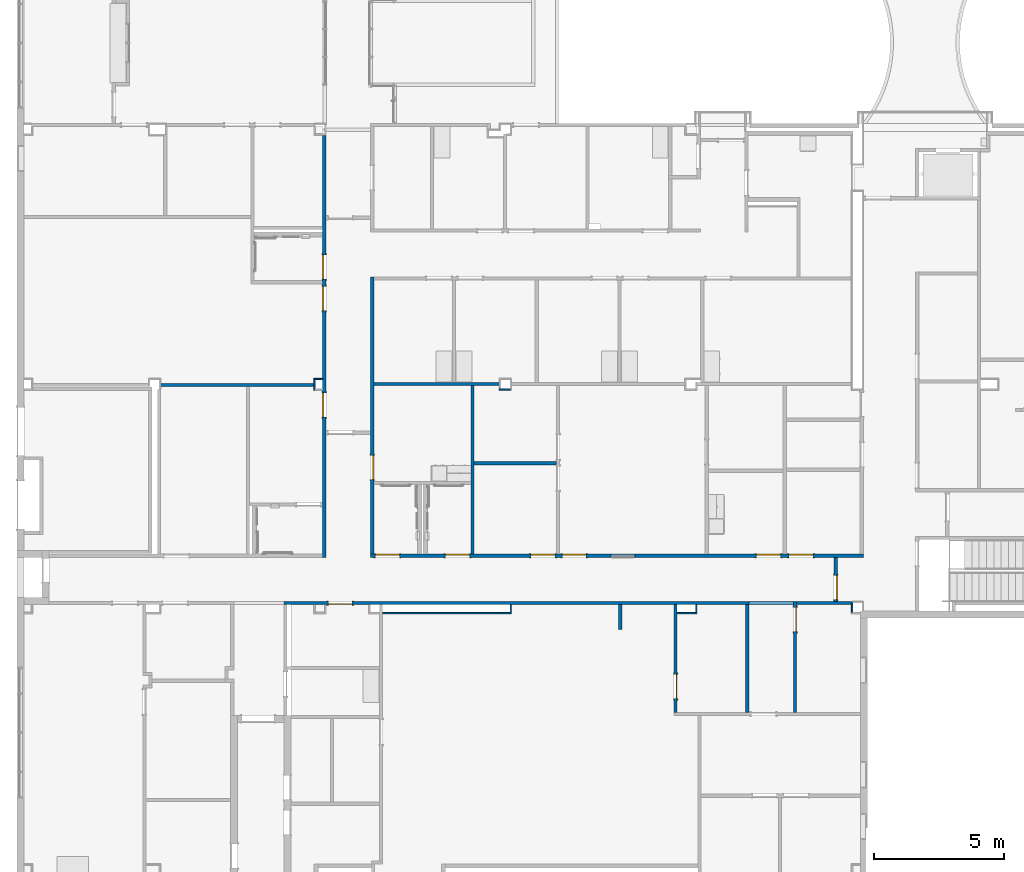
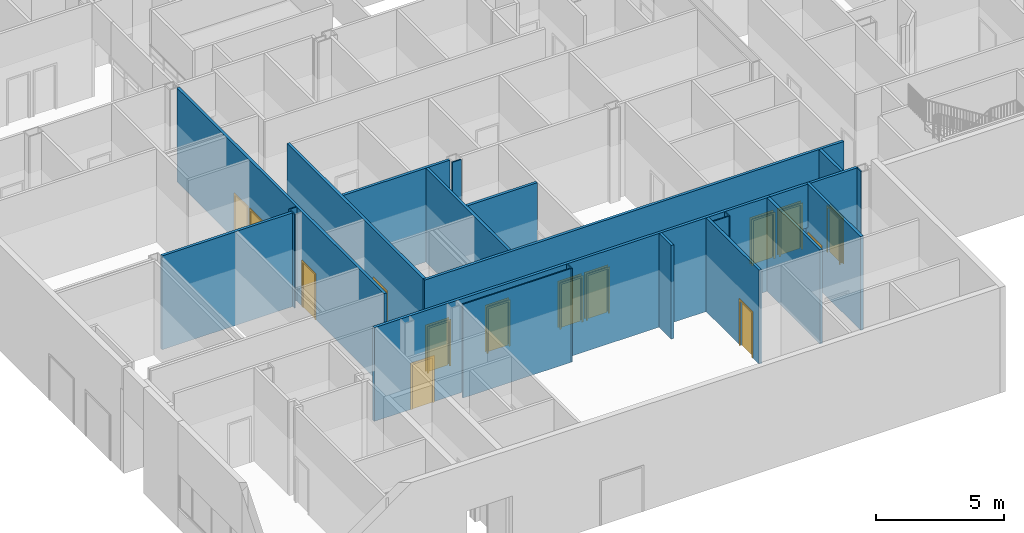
# One storey, part 21 of 82: 23 walls, 14 doors, 15 openings.
"""IFC2X3 building model written with IfcOpenShell, lengths in metres."""

from ifc_helpers import new_model, entity, si_unit, converted_unit, frame, frame_2d, origin, origin_2d_with_axis, place, context, project, spatial, polyline, rectangle, outline, extrude, source, transform, mapped, material, layer, layer_set, layer_usage, type_object, type_shapes, element, fill, save


model = new_model("IFC2X3")

# Units and contexts
model_context = context("Model", 3, precision=1e-09, world=origin())
plan_context = context("Plan", 3, precision=1e-09, world=origin())
ifc_project = project(units=[si_unit("LENGTHUNIT", "METRE"), si_unit("AREAUNIT", "SQUARE_METRE"), si_unit("VOLUMEUNIT", "CUBIC_METRE"), converted_unit("PLANEANGLEUNIT", "DEGREE", entity("IfcRatioMeasure", 0.01745329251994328), si_unit("PLANEANGLEUNIT", "RADIAN"), dimensions=[0, 0, 0, 0, 0, 0, 0]), si_unit("TIMEUNIT", "SECOND")], contexts=[model_context, plan_context])

# Site, building, storey
site_placement = place(None, origin())
site = spatial("IfcSite", under=ifc_project, at=site_placement, Name="Default", CompositionType="ELEMENT")
building_placement = place(site_placement, origin())
building = spatial("IfcBuilding", under=site, at=building_placement, CompositionType="ELEMENT")
storey_placement = place(building_placement, origin())
storey = spatial("IfcBuildingStorey", under=building, at=storey_placement, Name="First Floor", CompositionType="ELEMENT", Elevation=-3.531500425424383e-13)

# Wall, openings, doors
ifc_material_1 = material(Name="Plasterboard")
ifc_layer_1 = layer(ifc_material_1, 0.016)
ifc_material_2 = material(Name="Metal - Stud Layer")
ifc_layer_2 = layer(ifc_material_2, 0.092)
ifc_layer_3 = layer(ifc_material_1, 0.016)
ifc_layer_set_1 = layer_set([ifc_layer_1, ifc_layer_2, ifc_layer_3], Name="Basic Wall:Interior - Partition (92mm Stud)")
ifc_layer_usage_1 = layer_usage(ifc_layer_set_1, "AXIS2", "NEGATIVE", 0.062)
wall_1_placement = place(storey_placement, frame((-40.49200000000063, 28.14999999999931, 0.0), z_axis=(0.0, 0.0, 1.0), x_axis=(0.0, -1.0, 0.0)))
wall_1 = element("IfcWallStandardCase", 1, at=wall_1_placement, inside=storey, material=ifc_layer_usage_1, Name="Basic Wall:Interior - Partition (92mm Stud)", ObjectType="Basic Wall:Interior - Partition (92mm Stud)", context=model_context, shape_type="SweptSolid", body=[
    extrude(rectangle(XDim=16.1700000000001, YDim=0.1240000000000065, at=frame_2d((8.085000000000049, 0.0), x_axis=(-1.0, 0.0))), origin(), (0.0, 0.0, 1.0), 4.468000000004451),
])
opening_1_placement = place(wall_1_placement, frame((6.704999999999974, 0.06199999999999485, 0.0)))
opening_1 = element("IfcOpeningElement", 2, at=opening_1_placement, cuts=wall_1, Name="M_Single-Flush:0915 x 2134mm:0915 x 2134mm:1", ObjectType="Opening", context=model_context, shape_type="SweptSolid", body=[
    extrude(rectangle(XDim=0.9149999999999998, YDim=2.134, at=frame_2d((1.067, 0.4575), x_axis=(0.0, 1.0))), frame((0.0, 0.0, 0.0), z_axis=(0.0, -1.0, 0.0), x_axis=(0.0, 0.0, 1.0)), (0.0, 0.0, 1.0), 0.124),
])
opening_2_placement = place(wall_1_placement, frame((5.505999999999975, 0.06199999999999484, 0.0)))
opening_2 = element("IfcOpeningElement", 3, at=opening_2_placement, cuts=wall_1, Name="M_Single-Flush:0915 x 2134mm:0915 x 2134mm:1", ObjectType="Opening", context=model_context, shape_type="SweptSolid", body=[
    extrude(rectangle(XDim=0.9149999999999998, YDim=2.134, at=frame_2d((1.067, 0.4574999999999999), x_axis=(0.0, -1.0))), frame((0.0, 0.0, 0.0), z_axis=(0.0, -1.0, 0.0), x_axis=(0.0, 0.0, 1.0)), (0.0, 0.0, 1.0), 0.124),
])
opening_3_placement = place(wall_1_placement, frame((10.78499999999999, 0.06199999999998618, 0.0)))
opening_3 = element("IfcOpeningElement", 4, at=opening_3_placement, cuts=wall_1, Name="M_Single-Flush:0915 x 2134mm:0915 x 2134mm:1", ObjectType="Opening", context=model_context, shape_type="SweptSolid", body=[
    extrude(rectangle(XDim=0.9149999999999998, YDim=2.134, at=frame_2d((1.067, 0.4575), x_axis=(0.0, 1.0))), frame((0.0, 0.0, 0.0), z_axis=(0.0, -1.0, 0.0), x_axis=(0.0, 0.0, 1.0)), (0.0, 0.0, 1.0), 0.124),
])
door_style_1 = type_object("IfcDoorStyle", Name="0915 x 2134mm", ConstructionType="NOTDEFINED", OperationType="SINGLE_SWING_RIGHT", ParameterTakesPrecedence=False, Sizeable=False)
shared_shape_1 = source(origin(), model_context, "Body", "SweptSolid", [
    extrude(outline(polyline([(-0.5335, -1.123999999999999), (0.5334999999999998, -1.123999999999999), (0.5334999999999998, 1.086), (0.4574999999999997, 1.086), (0.4574999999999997, -1.048000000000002), (-0.4574999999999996, -1.048000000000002), (-0.4574999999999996, 1.086), (-0.5335, 1.086), (-0.5335, -1.123999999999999)])), frame((0.4575000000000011, 0.1239999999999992, 1.086), z_axis=(0.0, 1.0, 0.0), x_axis=(1.0, 0.0, 0.0)), (0.0, 0.0, 1.0), 0.02499999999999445),
    extrude(outline(polyline([(-1.123999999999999, -0.5334999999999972), (1.085999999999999, -0.5334999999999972), (1.085999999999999, -0.4575000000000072), (-1.048, -0.4575000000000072), (-1.048, 0.4575000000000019), (1.085999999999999, 0.4575000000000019), (1.085999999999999, 0.5335000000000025), (-1.123999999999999, 0.5335000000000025), (-1.123999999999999, -0.5334999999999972)])), frame((0.4575000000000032, -0.02500000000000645, 1.085999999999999), z_axis=(0.0, 1.0, 0.0), x_axis=(0.0, 0.0, -1.0)), (0.0, 0.0, 1.0), 0.02500000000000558),
    extrude(rectangle(XDim=0.051, YDim=0.9149999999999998, at=origin_2d_with_axis()), frame((0.4575000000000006, 0.09849999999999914, 0.0), z_axis=(0.0, 0.0, 1.0), x_axis=(0.0, 1.0, 0.0)), (0.0, 0.0, 1.0), 2.133999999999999),
])
type_shapes(door_style_1, [shared_shape_1])
door_1_placement = place(opening_1_placement, frame((0.0, 0.0, 0.0), z_axis=(0.0, 0.0, 1.0), x_axis=(-1.0, 0.0, 0.0)))
door_1 = element("IfcDoor", 5, at=door_1_placement, inside=storey, type_object=door_style_1, Name="M_Single-Flush:0915 x 2134mm:0915 x 2134mm", ObjectType="0915 x 2134mm", OverallHeight=2.134, OverallWidth=0.9149999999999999, context=model_context, shape_type="MappedRepresentation", body=[
    mapped(shared_shape_1, transform((0.0, 0.0, 0.0), scale=1.0)),
])
fill(opening_1, door_1)
door_2_placement = place(opening_3_placement, frame((0.0, 0.0, 0.0), z_axis=(0.0, 0.0, 1.0), x_axis=(-1.0, 0.0, 0.0)))
door_2 = element("IfcDoor", 6, at=door_2_placement, inside=storey, type_object=door_style_1, Name="M_Single-Flush:0915 x 2134mm:0915 x 2134mm", ObjectType="0915 x 2134mm", OverallHeight=2.134, OverallWidth=0.9149999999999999, context=model_context, shape_type="MappedRepresentation", body=[
    mapped(shared_shape_1, transform((0.0, 0.0, 0.0), scale=1.0)),
])
fill(opening_3, door_2)
door_style_2 = type_object("IfcDoorStyle", Name="0915 x 2134mm", ConstructionType="NOTDEFINED", OperationType="SINGLE_SWING_LEFT", ParameterTakesPrecedence=False, Sizeable=False)
shared_shape_2 = source(origin(), model_context, "Body", "SweptSolid", [
    extrude(outline(polyline([(-0.5335, -1.123999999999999), (0.5334999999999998, -1.123999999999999), (0.5334999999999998, 1.086), (0.4574999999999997, 1.086), (0.4574999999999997, -1.048000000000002), (-0.4574999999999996, -1.048000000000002), (-0.4574999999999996, 1.086), (-0.5335, 1.086), (-0.5335, -1.123999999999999)])), frame((0.4575000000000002, 0.1489999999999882, 1.086), z_axis=(0.0, -1.0, 0.0), x_axis=(-1.0, 0.0, 0.0)), (0.0, 0.0, 1.0), 0.02499999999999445),
    extrude(outline(polyline([(-1.123999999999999, -0.5334999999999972), (1.085999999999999, -0.5334999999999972), (1.085999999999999, -0.4575000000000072), (-1.048, -0.4575000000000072), (-1.048, 0.4575000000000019), (1.085999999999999, 0.4575000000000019), (1.085999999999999, 0.5335000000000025), (-1.123999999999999, 0.5335000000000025), (-1.123999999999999, -0.5334999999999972)])), frame((0.4574999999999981, 0.0, 1.085999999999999), z_axis=(0.0, -1.0, 0.0), x_axis=(0.0, 0.0, -1.0)), (0.0, 0.0, 1.0), 0.02500000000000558),
    extrude(rectangle(XDim=0.9149999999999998, YDim=0.051, at=origin_2d_with_axis()), frame((0.4575000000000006, 0.09849999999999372, 0.0)), (0.0, 0.0, 1.0), 2.133999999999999),
])
type_shapes(door_style_2, [shared_shape_2])
door_3_placement = place(opening_2_placement, frame((0.0, 0.0, 0.0), z_axis=(0.0, 0.0, 1.0), x_axis=(-1.0, 0.0, 0.0)))
door_3 = element("IfcDoor", 7, at=door_3_placement, inside=storey, type_object=door_style_2, Name="M_Single-Flush:0915 x 2134mm:0915 x 2134mm", ObjectType="0915 x 2134mm", OverallHeight=2.134, OverallWidth=0.9149999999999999, context=model_context, shape_type="MappedRepresentation", body=[
    mapped(shared_shape_2, transform((0.0, 0.0, 0.0), scale=1.0)),
])
fill(opening_2, door_3)

wall_2_placement = place(storey_placement, frame((-19.83000000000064, 12.04199999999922, 0.0), z_axis=(0.0, 0.0, 1.0), x_axis=(-1.0, 0.0, 0.0)))
wall_2 = element("IfcWallStandardCase", 8, at=wall_2_placement, inside=storey, material=ifc_layer_usage_1, Name="Basic Wall:Interior - Partition (92mm Stud)", ObjectType="Basic Wall:Interior - Partition (92mm Stud)", context=model_context, shape_type="SweptSolid", body=[
    extrude(rectangle(XDim=18.89000000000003, YDim=0.1240000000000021, at=frame_2d((9.445000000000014, 0.0), x_axis=(-1.0, 0.0))), origin(), (0.0, 0.0, 1.0), 4.46800000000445),
])
opening_4_placement = place(wall_2_placement, origin())
element("IfcOpeningElement", 9, at=opening_4_placement, cuts=wall_2, ObjectType="Opening", context=model_context, shape_type="SweptSolid", body=[
    extrude(rectangle(XDim=0.9999999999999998, YDim=0.9150000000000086, at=frame_2d((0.0, 0.0), x_axis=(0.0, 1.0))), frame((9.221299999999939, -0.2143999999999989, 1.5), z_axis=(0.0, 1.0, 0.0), x_axis=(-1.0, 0.0, 0.0)), (0.0, 0.0, 1.0), 0.4288),
])
opening_5_placement = place(wall_2_placement, frame((11.54, 0.06199999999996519, 0.0)))
opening_5 = element("IfcOpeningElement", 10, at=opening_5_placement, cuts=wall_2, Name="M_Single-Flush:0915 x 2134mm:0915 x 2134mm:1", ObjectType="Opening", context=model_context, shape_type="SweptSolid", body=[
    extrude(rectangle(XDim=0.9149999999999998, YDim=2.134, at=frame_2d((1.067, 0.4574999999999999), x_axis=(0.0, -1.0))), frame((0.0, 0.0, 0.0), z_axis=(0.0, -1.0, 0.0), x_axis=(0.0, 0.0, 1.0)), (0.0, 0.0, 1.0), 0.124),
])
opening_6_placement = place(wall_2_placement, frame((12.73899999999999, 0.06199999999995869, 0.0)))
opening_6 = element("IfcOpeningElement", 11, at=opening_6_placement, cuts=wall_2, Name="M_Single-Flush:0915 x 2134mm:0915 x 2134mm:1", ObjectType="Opening", context=model_context, shape_type="SweptSolid", body=[
    extrude(rectangle(XDim=0.9149999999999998, YDim=2.134, at=frame_2d((1.067, 0.4575), x_axis=(0.0, 1.0))), frame((0.0, 0.0, 0.0), z_axis=(0.0, -1.0, 0.0), x_axis=(0.0, 0.0, 1.0)), (0.0, 0.0, 1.0), 0.124),
])
opening_7_placement = place(wall_2_placement, frame((4.094999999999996, 0.06199999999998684, 0.0)))
opening_7 = element("IfcOpeningElement", 12, at=opening_7_placement, cuts=wall_2, Name="M_Single-Flush:0915 x 2134mm:0915 x 2134mm:1", ObjectType="Opening", context=model_context, shape_type="SweptSolid", body=[
    extrude(rectangle(XDim=0.9149999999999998, YDim=2.134, at=frame_2d((1.067, 0.4575), x_axis=(0.0, 1.0))), frame((0.0, 0.0, 0.0), z_axis=(0.0, -1.0, 0.0), x_axis=(0.0, 0.0, 1.0)), (0.0, 0.0, 1.0), 0.124),
])
opening_8_placement = place(wall_2_placement, frame((2.856, 0.06199999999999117, 0.0)))
opening_8 = element("IfcOpeningElement", 13, at=opening_8_placement, cuts=wall_2, Name="M_Single-Flush:0915 x 2134mm:0915 x 2134mm:1", ObjectType="Opening", context=model_context, shape_type="SweptSolid", body=[
    extrude(rectangle(XDim=0.9149999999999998, YDim=2.134, at=frame_2d((1.067, 0.4574999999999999), x_axis=(0.0, -1.0))), frame((0.0, 0.0, 0.0), z_axis=(0.0, -1.0, 0.0), x_axis=(0.0, 0.0, 1.0)), (0.0, 0.0, 1.0), 0.124),
])
opening_9_placement = place(wall_2_placement, frame((16.019, 0.06199999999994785, 0.0)))
opening_9 = element("IfcOpeningElement", 14, at=opening_9_placement, cuts=wall_2, Name="M_Single-Flush:0915 x 2134mm:0915 x 2134mm:1", ObjectType="Opening", context=model_context, shape_type="SweptSolid", body=[
    extrude(rectangle(XDim=0.9149999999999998, YDim=2.134, at=frame_2d((1.067, 0.4575), x_axis=(0.0, 1.0))), frame((0.0, 0.0, 0.0), z_axis=(0.0, -1.0, 0.0), x_axis=(0.0, 0.0, 1.0)), (0.0, 0.0, 1.0), 0.124),
])
opening_10_placement = place(wall_2_placement, frame((18.70600000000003, 0.06199999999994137, 0.0)))
opening_10 = element("IfcOpeningElement", 15, at=opening_10_placement, cuts=wall_2, Name="M_Single-Flush:0915 x 2134mm:0915 x 2134mm:1", ObjectType="Opening", context=model_context, shape_type="SweptSolid", body=[
    extrude(rectangle(XDim=0.9149999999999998, YDim=2.134, at=frame_2d((1.067, 0.4574999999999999), x_axis=(0.0, -1.0))), frame((0.0, 0.0, 0.0), z_axis=(0.0, -1.0, 0.0), x_axis=(0.0, 0.0, 1.0)), (0.0, 0.0, 1.0), 0.124),
])
door_4_placement = place(opening_7_placement, frame((0.0, 0.0, 0.0), z_axis=(0.0, 0.0, 1.0), x_axis=(-1.0, 0.0, 0.0)))
door_4 = element("IfcDoor", 16, at=door_4_placement, inside=storey, type_object=door_style_1, Name="M_Single-Flush:0915 x 2134mm:0915 x 2134mm", ObjectType="0915 x 2134mm", OverallHeight=2.134, OverallWidth=0.9149999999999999, context=model_context, shape_type="MappedRepresentation", body=[
    mapped(shared_shape_1, transform((0.0, 0.0, 0.0), scale=1.0)),
])
fill(opening_7, door_4)
door_5_placement = place(opening_9_placement, frame((0.0, 0.0, 0.0), z_axis=(0.0, 0.0, 1.0), x_axis=(-1.0, 0.0, 0.0)))
door_5 = element("IfcDoor", 17, at=door_5_placement, inside=storey, type_object=door_style_1, Name="M_Single-Flush:0915 x 2134mm:0915 x 2134mm", ObjectType="0915 x 2134mm", OverallHeight=2.134, OverallWidth=0.9149999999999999, context=model_context, shape_type="MappedRepresentation", body=[
    mapped(shared_shape_1, transform((0.0, 0.0, 0.0), scale=1.0)),
])
fill(opening_9, door_5)
door_6_placement = place(opening_6_placement, frame((0.0, 0.0, 0.0), z_axis=(0.0, 0.0, 1.0), x_axis=(-1.0, 0.0, 0.0)))
door_6 = element("IfcDoor", 18, at=door_6_placement, inside=storey, type_object=door_style_1, Name="M_Single-Flush:0915 x 2134mm:0915 x 2134mm", ObjectType="0915 x 2134mm", OverallHeight=2.134, OverallWidth=0.9149999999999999, context=model_context, shape_type="MappedRepresentation", body=[
    mapped(shared_shape_1, transform((0.0, 0.0, 0.0), scale=1.0)),
])
fill(opening_6, door_6)
door_7_placement = place(opening_10_placement, frame((0.0, 0.0, 0.0), z_axis=(0.0, 0.0, 1.0), x_axis=(-1.0, 0.0, 0.0)))
door_7 = element("IfcDoor", 19, at=door_7_placement, inside=storey, type_object=door_style_2, Name="M_Single-Flush:0915 x 2134mm:0915 x 2134mm", ObjectType="0915 x 2134mm", OverallHeight=2.134, OverallWidth=0.9149999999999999, context=model_context, shape_type="MappedRepresentation", body=[
    mapped(shared_shape_2, transform((0.0, 0.0, 0.0), scale=1.0)),
])
fill(opening_10, door_7)
door_8_placement = place(opening_8_placement, frame((0.0, 0.0, 0.0), z_axis=(0.0, 0.0, 1.0), x_axis=(-1.0, 0.0, 0.0)))
door_8 = element("IfcDoor", 20, at=door_8_placement, inside=storey, type_object=door_style_2, Name="M_Single-Flush:0915 x 2134mm:0915 x 2134mm", ObjectType="0915 x 2134mm", OverallHeight=2.134, OverallWidth=0.9149999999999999, context=model_context, shape_type="MappedRepresentation", body=[
    mapped(shared_shape_2, transform((0.0, 0.0, 0.0), scale=1.0)),
])
fill(opening_8, door_8)
door_9_placement = place(opening_5_placement, frame((0.0, 0.0, 0.0), z_axis=(0.0, 0.0, 1.0), x_axis=(-1.0, 0.0, 0.0)))
door_9 = element("IfcDoor", 21, at=door_9_placement, inside=storey, type_object=door_style_2, Name="M_Single-Flush:0915 x 2134mm:0915 x 2134mm", ObjectType="0915 x 2134mm", OverallHeight=2.134, OverallWidth=0.9149999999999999, context=model_context, shape_type="MappedRepresentation", body=[
    mapped(shared_shape_2, transform((0.0, 0.0, 0.0), scale=1.0)),
])
fill(opening_5, door_9)

# Wall, opening, door
wall_3_placement = place(storey_placement, frame((-42.04000000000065, 10.22499999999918, 0.0)))
wall_3 = element("IfcWallStandardCase", 22, at=wall_3_placement, inside=storey, material=ifc_layer_usage_1, Name="Basic Wall:Interior - Partition (92mm Stud)", ObjectType="Basic Wall:Interior - Partition (92mm Stud)", context=model_context, shape_type="SweptSolid", body=[
    extrude(rectangle(XDim=17.82000000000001, YDim=0.1240000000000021, at=frame_2d((8.910000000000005, 0.0), x_axis=(-1.0, 0.0))), origin(), (0.0, 0.0, 1.0), 4.468000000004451),
])
opening_11_placement = place(wall_3_placement, frame((2.614599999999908, 0.06199999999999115, 0.0)))
opening_11 = element("IfcOpeningElement", 23, at=opening_11_placement, cuts=wall_3, Name="M_Single-Flush:0915 x 2134mm:0915 x 2134mm:1", ObjectType="Opening", context=model_context, shape_type="SweptSolid", body=[
    extrude(rectangle(XDim=0.9149999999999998, YDim=2.134, at=frame_2d((1.067, 0.4575), x_axis=(0.0, 1.0))), frame((0.0, 0.0, 0.0), z_axis=(0.0, -1.0, 0.0), x_axis=(0.0, 0.0, 1.0)), (0.0, 0.0, 1.0), 0.124),
])
door_10_placement = place(opening_11_placement, frame((0.0, 0.0, 0.0), z_axis=(0.0, 0.0, 1.0), x_axis=(-1.0, 0.0, 0.0)))
door_10 = element("IfcDoor", 24, at=door_10_placement, inside=storey, type_object=door_style_1, Name="M_Single-Flush:0915 x 2134mm:0915 x 2134mm", ObjectType="0915 x 2134mm", OverallHeight=2.134, OverallWidth=0.9149999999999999, context=model_context, shape_type="MappedRepresentation", body=[
    mapped(shared_shape_1, transform((0.0, 0.0, 0.0), scale=1.0)),
])
fill(opening_11, door_10)

wall_4_placement = place(storey_placement, frame((-38.65800000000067, 12.10399999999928, 0.0), z_axis=(0.0, 0.0, 1.0), x_axis=(0.0, 1.0, 0.0)))
wall_4 = element("IfcWallStandardCase", 25, at=wall_4_placement, inside=storey, material=ifc_layer_usage_1, Name="Basic Wall:Interior - Partition (92mm Stud)", ObjectType="Basic Wall:Interior - Partition (92mm Stud)", context=model_context, shape_type="SweptSolid", body=[
    extrude(rectangle(XDim=10.62600000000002, YDim=0.1239999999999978, at=frame_2d((5.313000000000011, 0.0), x_axis=(-1.0, 0.0))), origin(), (0.0, 0.0, 1.0), 4.46800000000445),
])
opening_12_placement = place(wall_4_placement, frame((3.780999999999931, 0.0619999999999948, 0.0)))
opening_12 = element("IfcOpeningElement", 26, at=opening_12_placement, cuts=wall_4, Name="M_Single-Flush:0915 x 2134mm:0915 x 2134mm:1", ObjectType="Opening", context=model_context, shape_type="SweptSolid", body=[
    extrude(rectangle(XDim=0.9149999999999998, YDim=2.134, at=frame_2d((1.067, 0.4575), x_axis=(0.0, 1.0))), frame((0.0, 0.0, 0.0), z_axis=(0.0, -1.0, 0.0), x_axis=(0.0, 0.0, 1.0)), (0.0, 0.0, 1.0), 0.124),
])
door_11_placement = place(opening_12_placement, frame((0.0, 0.0, 0.0), z_axis=(0.0, 0.0, 1.0), x_axis=(-1.0, 0.0, 0.0)))
door_11 = element("IfcDoor", 27, at=door_11_placement, inside=storey, type_object=door_style_1, Name="M_Single-Flush:0915 x 2134mm:0915 x 2134mm", ObjectType="0915 x 2134mm", OverallHeight=2.134, OverallWidth=0.9149999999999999, context=model_context, shape_type="MappedRepresentation", body=[
    mapped(shared_shape_1, transform((0.0, 0.0, 0.0), scale=1.0)),
])
fill(opening_12, door_11)

# Walls
wall_5_placement = place(storey_placement, frame((-22.38600000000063, 10.22499999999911, 0.0)))
element("IfcWallStandardCase", 28, at=wall_5_placement, inside=storey, material=ifc_layer_usage_1, Name="Basic Wall:Interior - Partition (92mm Stud)", ObjectType="Basic Wall:Interior - Partition (92mm Stud)", context=model_context, shape_type="SweptSolid", body=[
    extrude(rectangle(XDim=2.122999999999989, YDim=0.1240000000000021, at=frame_2d((1.061499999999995, 0.0), x_axis=(-1.0, 0.0))), origin(), (0.0, 0.0, 1.0), 4.46800000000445),
])
wall_6_placement = place(storey_placement, frame((-34.81200000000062, 18.55999999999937, 0.0), z_axis=(0.0, 0.0, 1.0), x_axis=(0.0, -1.0, 0.0)))
element("IfcWallStandardCase", 29, at=wall_6_placement, inside=storey, material=ifc_layer_usage_1, Name="Basic Wall:Interior - Partition (92mm Stud)", ObjectType="Basic Wall:Interior - Partition (92mm Stud)", context=model_context, shape_type="SweptSolid", body=[
    extrude(rectangle(XDim=6.456000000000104, YDim=0.1239999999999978, at=frame_2d((3.228000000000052, 0.0), x_axis=(-1.0, 0.0))), origin(), (0.0, 0.0, 1.0), 4.468000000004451),
])
wall_7_placement = place(storey_placement, frame((-33.78000000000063, 18.62199999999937, 0.0), z_axis=(0.0, 0.0, 1.0), x_axis=(-1.0, 0.0, 0.0)))
element("IfcWallStandardCase", 30, at=wall_7_placement, inside=storey, material=ifc_layer_usage_1, Name="Basic Wall:Interior - Partition (92mm Stud)", ObjectType="Basic Wall:Interior - Partition (92mm Stud)", context=model_context, shape_type="SweptSolid", body=[
    extrude(rectangle(XDim=4.816000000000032, YDim=0.1240000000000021, at=frame_2d((2.408000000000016, 0.0), x_axis=(-1.0, 0.0))), origin(), (0.0, 0.0, 1.0), 4.468000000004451),
])

# Wall, opening, door
wall_8_placement = place(storey_placement, frame((-22.44800000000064, 6.033999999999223, 0.0), z_axis=(0.0, 0.0, 1.0), x_axis=(0.0, 1.0, 0.0)))
wall_8 = element("IfcWallStandardCase", 31, at=wall_8_placement, inside=storey, material=ifc_layer_usage_1, Name="Basic Wall:Interior - Partition (92mm Stud)", ObjectType="Basic Wall:Interior - Partition (92mm Stud)", context=model_context, shape_type="SweptSolid", body=[
    extrude(rectangle(XDim=4.25299999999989, YDim=0.1239999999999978, at=frame_2d((2.126499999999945, 0.0), x_axis=(-1.0, 0.0))), origin(), (0.0, 0.0, 1.0), 4.46800000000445),
])
opening_13_placement = place(wall_8_placement, frame((4.011999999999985, 0.06199999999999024, 0.0)))
opening_13 = element("IfcOpeningElement", 32, at=opening_13_placement, cuts=wall_8, Name="M_Single-Flush:0915 x 2134mm:0915 x 2134mm:1", ObjectType="Opening", context=model_context, shape_type="SweptSolid", body=[
    extrude(rectangle(XDim=0.9150000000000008, YDim=2.134, at=frame_2d((1.067, 0.4575000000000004), x_axis=(0.0, -1.0))), frame((0.0, 0.0, 0.0), z_axis=(0.0, -1.0, 0.0), x_axis=(0.0, 0.0, 1.0)), (0.0, 0.0, 1.0), 0.124),
])
door_12_placement = place(opening_13_placement, frame((0.0, 0.0, 0.0), z_axis=(0.0, 0.0, 1.0), x_axis=(-1.0, 0.0, 0.0)))
door_12 = element("IfcDoor", 33, at=door_12_placement, inside=storey, type_object=door_style_2, Name="M_Single-Flush:0915 x 2134mm:0915 x 2134mm", ObjectType="0915 x 2134mm", OverallHeight=2.134, OverallWidth=0.915000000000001, context=model_context, shape_type="MappedRepresentation", body=[
    mapped(shared_shape_2, transform((0.0, 0.0, 0.0), scale=1.0)),
])
fill(opening_13, door_12)

wall_9_placement = place(storey_placement, frame((-27.02840000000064, 6.033999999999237, 0.0), z_axis=(0.0, 0.0, 1.0), x_axis=(0.0, 1.0, 0.0)))
wall_9 = element("IfcWallStandardCase", 34, at=wall_9_placement, inside=storey, material=ifc_layer_usage_1, Name="Basic Wall:Interior - Partition (92mm Stud)", ObjectType="Basic Wall:Interior - Partition (92mm Stud)", context=model_context, shape_type="SweptSolid", body=[
    extrude(rectangle(XDim=4.128999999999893, YDim=0.1239999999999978, at=frame_2d((2.064499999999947, 0.0), x_axis=(-1.0, 0.0))), origin(), (0.0, 0.0, 1.0), 4.46800000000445),
])
opening_14_placement = place(wall_9_placement, frame((1.454999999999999, 0.0619999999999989, 0.0)))
opening_14 = element("IfcOpeningElement", 35, at=opening_14_placement, cuts=wall_9, Name="M_Single-Flush:0915 x 2134mm:0915 x 2134mm:1", ObjectType="Opening", context=model_context, shape_type="SweptSolid", body=[
    extrude(rectangle(XDim=0.9149999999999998, YDim=2.134, at=frame_2d((1.067, 0.4575), x_axis=(0.0, 1.0))), frame((0.0, 0.0, 0.0), z_axis=(0.0, -1.0, 0.0), x_axis=(0.0, 0.0, 1.0)), (0.0, 0.0, 1.0), 0.124),
])
door_13_placement = place(opening_14_placement, frame((0.0, 0.0, 0.0), z_axis=(0.0, 0.0, 1.0), x_axis=(-1.0, 0.0, 0.0)))
door_13 = element("IfcDoor", 36, at=door_13_placement, inside=storey, type_object=door_style_1, Name="M_Single-Flush:0915 x 2134mm:0915 x 2134mm", ObjectType="0915 x 2134mm", OverallHeight=2.134, OverallWidth=0.9149999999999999, context=model_context, shape_type="MappedRepresentation", body=[
    mapped(shared_shape_1, transform((0.0, 0.0, 0.0), scale=1.0)),
])
fill(opening_14, door_13)

# Walls
wall_10_placement = place(storey_placement, frame((-24.22000000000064, 10.22499999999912, 2.4)))
element("IfcWallStandardCase", 37, at=wall_10_placement, inside=storey, material=ifc_layer_usage_1, Name="Basic Wall:Interior - Partition (92mm Stud)", ObjectType="Basic Wall:Interior - Partition (92mm Stud)", context=model_context, shape_type="SweptSolid", body=[
    extrude(rectangle(XDim=1.71000000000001, YDim=0.1240000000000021, at=frame_2d((0.8550000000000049, 0.0), x_axis=(-1.0, 0.0))), origin(), (0.0, 0.0, 1.0), 2.06800000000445),
])
wall_11_placement = place(storey_placement, frame((-46.77000000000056, 18.58799999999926, 0.0)))
element("IfcWallStandardCase", 38, at=wall_11_placement, inside=storey, material=ifc_layer_usage_1, Name="Basic Wall:Interior - Partition (92mm Stud)", ObjectType="Basic Wall:Interior - Partition (92mm Stud)", context=model_context, shape_type="SweptSolid", body=[
    extrude(rectangle(XDim=5.879999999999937, YDim=0.1240000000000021, at=frame_2d((2.939999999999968, 0.0), x_axis=(-1.0, 0.0))), origin(), (0.0, 0.0, 1.0), 4.468000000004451),
])
wall_12_placement = place(storey_placement, frame((-24.28200000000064, 10.16299999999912, 0.0), z_axis=(0.0, 0.0, 1.0), x_axis=(0.0, -1.0, 0.0)))
element("IfcWallStandardCase", 39, at=wall_12_placement, inside=storey, material=ifc_layer_usage_1, Name="Basic Wall:Interior - Partition (92mm Stud)", ObjectType="Basic Wall:Interior - Partition (92mm Stud)", context=model_context, shape_type="SweptSolid", body=[
    extrude(rectangle(XDim=4.128999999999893, YDim=0.1239999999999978, at=frame_2d((2.064499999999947, 0.0), x_axis=(-1.0, 0.0))), origin(), (0.0, 0.0, 1.0), 4.46800000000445),
])

# Wall, opening, door
wall_13_placement = place(storey_placement, frame((-20.89200000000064, 11.97999999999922, 0.0), z_axis=(0.0, 0.0, 1.0), x_axis=(0.0, -1.0, 0.0)))
wall_13 = element("IfcWallStandardCase", 40, at=wall_13_placement, inside=storey, material=ifc_layer_usage_1, Name="Basic Wall:Interior - Partition (92mm Stud)", ObjectType="Basic Wall:Interior - Partition (92mm Stud)", context=model_context, shape_type="SweptSolid", body=[
    extrude(rectangle(XDim=1.693000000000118, YDim=0.1239999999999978, at=frame_2d((0.8465000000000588, 0.0), x_axis=(-1.0, 0.0))), origin(), (0.0, 0.0, 1.0), 4.46800000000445),
])
opening_15_placement = place(wall_13_placement, frame((0.695000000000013, -0.06200000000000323, 0.0)))
opening_15 = element("IfcOpeningElement", 41, at=opening_15_placement, cuts=wall_13, Name="M_Single-Flush:0915 x 2134mm:0915 x 2134mm:1", ObjectType="Opening", context=model_context, shape_type="SweptSolid", body=[
    extrude(rectangle(XDim=0.9149999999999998, YDim=2.134, at=frame_2d((1.067, 0.4575), x_axis=(0.0, 1.0))), frame((0.0, 0.0, 0.0), z_axis=(0.0, 1.0, 0.0), x_axis=(0.0, 0.0, 1.0)), (0.0, 0.0, 1.0), 0.124),
])
door_14_placement = place(opening_15_placement, origin())
door_14 = element("IfcDoor", 42, at=door_14_placement, inside=storey, type_object=door_style_1, Name="M_Single-Flush:0915 x 2134mm:0915 x 2134mm", ObjectType="0915 x 2134mm", OverallHeight=2.134, OverallWidth=0.9149999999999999, context=model_context, shape_type="MappedRepresentation", body=[
    mapped(shared_shape_1, transform((0.0, 0.0, 0.0), scale=1.0)),
])
fill(opening_15, door_14)

# Walls
ifc_layer_4 = layer(ifc_material_2, 0.038)
ifc_layer_5 = layer(ifc_material_1, 0.016)
ifc_layer_set_2 = layer_set([ifc_layer_4, ifc_layer_5], Name="Basic Wall:Interior - Furring (38 mm Stud)")
ifc_layer_usage_2 = layer_usage(ifc_layer_set_2, "AXIS2", "POSITIVE", -0.027)
wall_14_placement = place(storey_placement, frame((-40.86300000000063, 18.37999999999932, 0.0), z_axis=(0.0, 0.0, 1.0), x_axis=(0.0, 1.0, 0.0)))
element("IfcWallStandardCase", 43, at=wall_14_placement, inside=storey, material=ifc_layer_usage_2, Name="Basic Wall:Interior - Furring (38 mm Stud)", ObjectType="Basic Wall:Interior - Furring (38 mm Stud)", context=model_context, shape_type="SweptSolid", body=[
    extrude(rectangle(XDim=0.4599999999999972, YDim=0.05400000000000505, at=frame_2d((0.2299999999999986, 0.0), x_axis=(-1.0, 0.0))), origin(), (0.0, 0.0, 1.0), 4.468000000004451),
])
wall_15_placement = place(storey_placement, frame((-20.26300000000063, 9.863999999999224, 0.0), z_axis=(0.0, 0.0, 1.0), x_axis=(0.0, 1.0, 0.0)))
element("IfcWallStandardCase", 44, at=wall_15_placement, inside=storey, material=ifc_layer_usage_2, Name="Basic Wall:Interior - Furring (38 mm Stud)", ObjectType="Basic Wall:Interior - Furring (38 mm Stud)", context=model_context, shape_type="SweptSolid", body=[
    extrude(outline(polyline([(0.3689999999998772, -0.02700000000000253), (0.3689999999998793, 0.0), (0.2989999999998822, 0.0), (0.2989999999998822, 0.02699999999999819), (0.0, 0.02699999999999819), (0.0, -0.02700000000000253), (0.3689999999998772, -0.02700000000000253)])), origin(), (0.0, 0.0, 1.0), 4.468000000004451),
])
wall_16_placement = place(storey_placement, frame((-34.75000000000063, 15.58799999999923, 0.0)))
element("IfcWallStandardCase", 45, at=wall_16_placement, inside=storey, material=ifc_layer_usage_1, Name="Basic Wall:Interior - Partition (92mm Stud)", ObjectType="Basic Wall:Interior - Partition (92mm Stud)", context=model_context, shape_type="SweptSolid", body=[
    extrude(rectangle(XDim=3.156000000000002, YDim=0.1240000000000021, at=frame_2d((1.578000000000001, 0.0), x_axis=(-1.0, 0.0))), origin(), (0.0, 0.0, 1.0), 4.46800000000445),
])
wall_17_placement = place(storey_placement, frame((-33.37400000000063, 18.40699999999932, 0.0), z_axis=(0.0, 0.0, 1.0), x_axis=(-1.0, 0.0, 0.0)))
element("IfcWallStandardCase", 46, at=wall_17_placement, inside=storey, material=ifc_layer_usage_2, Name="Basic Wall:Interior - Furring (38 mm Stud)", ObjectType="Basic Wall:Interior - Furring (38 mm Stud)", context=model_context, shape_type="SweptSolid", body=[
    extrude(rectangle(XDim=0.4059999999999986, YDim=0.05400000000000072, at=frame_2d((0.2029999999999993, 0.0), x_axis=(-1.0, 0.0))), origin(), (0.0, 0.0, 1.0), 4.468000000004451),
])
wall_18_placement = place(storey_placement, frame((-40.83600000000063, 18.81299999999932, 0.0)))
element("IfcWallStandardCase", 47, at=wall_18_placement, inside=storey, material=ifc_layer_usage_2, Name="Basic Wall:Interior - Furring (38 mm Stud)", ObjectType="Basic Wall:Interior - Furring (38 mm Stud)", context=model_context, shape_type="SweptSolid", body=[
    extrude(rectangle(XDim=0.2819999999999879, YDim=0.05400000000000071, at=frame_2d((0.140999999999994, 0.0), x_axis=(-1.0, 0.0))), origin(), (0.0, 0.0, 1.0), 4.46800000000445),
])
wall_19_placement = place(storey_placement, frame((-26.26400000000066, 9.836999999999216, 0.0), z_axis=(0.0, 0.0, 1.0), x_axis=(-1.0, 0.0, 0.0)))
element("IfcWallStandardCase", 48, at=wall_19_placement, inside=storey, material=ifc_layer_usage_2, Name="Basic Wall:Interior - Furring (38 mm Stud)", ObjectType="Basic Wall:Interior - Furring (38 mm Stud)", context=model_context, shape_type="SweptSolid", body=[
    extrude(rectangle(XDim=0.7023999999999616, YDim=0.05400000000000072, at=frame_2d((0.3511999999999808, 0.0), x_axis=(-1.0, 0.0))), origin(), (0.0, 0.0, 1.0), 4.46800000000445),
])
wall_20_placement = place(storey_placement, frame((-33.34700000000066, 10.16299999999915, 0.0), z_axis=(0.0, 0.0, 1.0), x_axis=(0.0, -1.0, 0.0)))
element("IfcWallStandardCase", 49, at=wall_20_placement, inside=storey, material=ifc_layer_usage_2, Name="Basic Wall:Interior - Furring (38 mm Stud)", ObjectType="Basic Wall:Interior - Furring (38 mm Stud)", context=model_context, shape_type="SweptSolid", body=[
    extrude(rectangle(XDim=0.3529999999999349, YDim=0.05399999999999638, at=frame_2d((0.1764999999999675, 0.0), x_axis=(-1.0, 0.0))), origin(), (0.0, 0.0, 1.0), 4.46800000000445),
])
wall_21_placement = place(storey_placement, frame((-33.37400000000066, 9.836999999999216, 0.0), z_axis=(0.0, 0.0, 1.0), x_axis=(-1.0, 0.0, 0.0)))
element("IfcWallStandardCase", 50, at=wall_21_placement, inside=storey, material=ifc_layer_usage_2, Name="Basic Wall:Interior - Furring (38 mm Stud)", ObjectType="Basic Wall:Interior - Furring (38 mm Stud)", context=model_context, shape_type="SweptSolid", body=[
    extrude(rectangle(XDim=4.881399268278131, YDim=0.05400000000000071, at=frame_2d((2.440699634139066, 0.0), x_axis=(-1.0, 0.0))), origin(), (0.0, 0.0, 1.0), 4.46800000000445),
])
wall_22_placement = place(storey_placement, frame((-26.23700000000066, 10.16299999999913, 0.0), z_axis=(0.0, 0.0, 1.0), x_axis=(0.0, -1.0, 0.0)))
element("IfcWallStandardCase", 51, at=wall_22_placement, inside=storey, material=ifc_layer_usage_2, Name="Basic Wall:Interior - Furring (38 mm Stud)", ObjectType="Basic Wall:Interior - Furring (38 mm Stud)", context=model_context, shape_type="SweptSolid", body=[
    extrude(rectangle(XDim=0.3529999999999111, YDim=0.05399999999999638, at=frame_2d((0.1764999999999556, 0.0), x_axis=(-1.0, 0.0))), origin(), (0.0, 0.0, 1.0), 4.46800000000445),
])
wall_23_placement = place(storey_placement, frame((-29.15240000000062, 10.16299999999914, 0.0), z_axis=(0.0, 0.0, 1.0), x_axis=(0.0, -1.0, 0.0)))
element("IfcWallStandardCase", 52, at=wall_23_placement, inside=storey, material=ifc_layer_usage_1, Name="Basic Wall:Interior - Partition (92mm Stud)", ObjectType="Basic Wall:Interior - Partition (92mm Stud)", context=model_context, shape_type="SweptSolid", body=[
    extrude(rectangle(XDim=0.9529999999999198, YDim=0.1239999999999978, at=frame_2d((0.4764999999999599, 0.0), x_axis=(-1.0, 0.0))), origin(), (0.0, 0.0, 1.0), 4.46800000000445),
])

save(model, "model.ifc")
